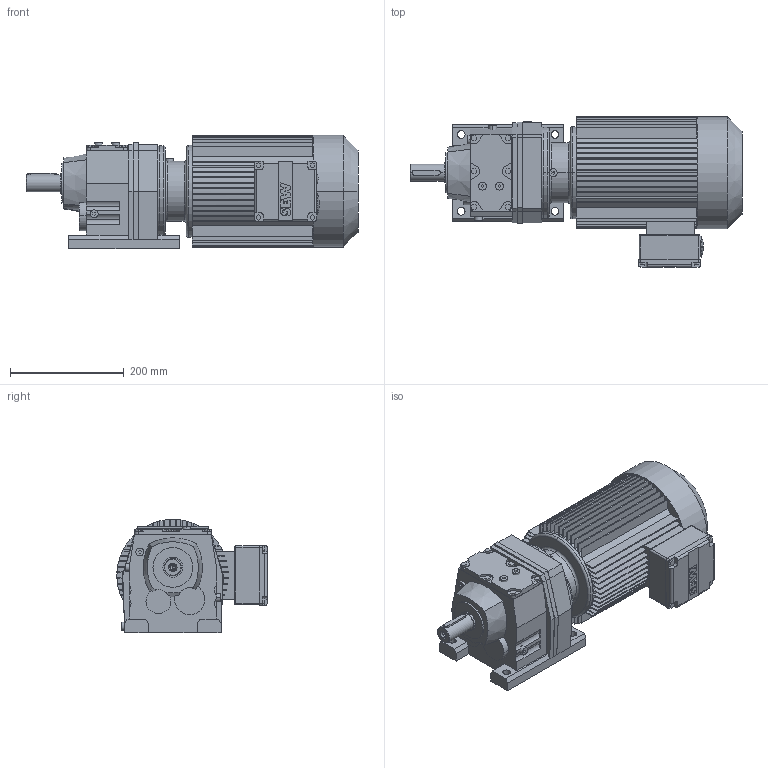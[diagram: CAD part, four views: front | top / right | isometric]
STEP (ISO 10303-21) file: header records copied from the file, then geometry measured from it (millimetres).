
FILE_DESCRIPTION(('modularis output'),'2;1');
FILE_NAME('R47DV100L4_TF_070425101539.stp','10:15:47 2007/04/25',( 'modularis software ag'),('modularis software ag'), 'unknown preprocess','ACIS','unknown authorization');
FILE_SCHEMA(('CONFIG_CONTROL_DESIGN {UNKNOWN IMPLEMENTATION LEVEL}'));
Length unit declared in the file: millimetre
Products named in the file (18): PRODUCT_ID_1; PRODUCT_ID_2; PRODUCT_ID_3; PRODUCT_ID_4; PRODUCT_ID_5; PRODUCT_ID_6; PRODUCT_ID_7; PRODUCT_ID_8; PRODUCT_ID_9; PRODUCT_ID_10; PRODUCT_ID_11; PRODUCT_ID_12; PRODUCT_ID_13; PRODUCT_ID_14; PRODUCT_ID_15; PRODUCT_ID_16; PRODUCT_ID_17; PRODUCT_ID_18
Bounding box: 584 x 264.5 x 199.49 mm (x, y, z)
Volume: 12594656.6 mm3; surface area: 988599.2 mm2
Topology: 18 solids, 18 shells, 767 faces, 1914 edges, 1253 vertices
Faces by surface type: plane 595, cylinder 138, cone 20, torus 10, sphere 4
Entity records: 23088 total; most frequent: CARTESIAN_POINT 3864, ORIENTED_EDGE 3816, DIRECTION 3341, EDGE_CURVE 1908, VECTOR 1377, LINE 1377, VERTEX_POINT 1253, AXIS2_PLACEMENT_3D 982
